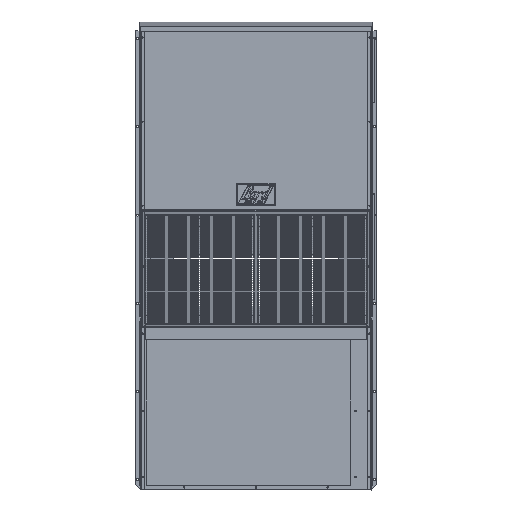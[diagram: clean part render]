
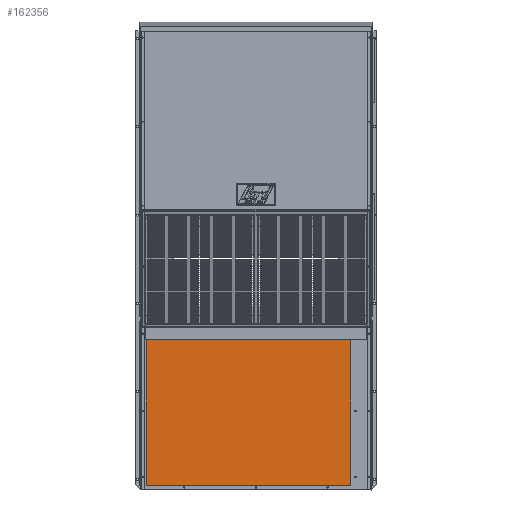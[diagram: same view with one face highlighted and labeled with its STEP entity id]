
A CAD part, top view. The second image highlights one B-rep face of the part: STEP entity #162356.
In plain terms, the highlighted planar face has unit normal (0, 0, 1).
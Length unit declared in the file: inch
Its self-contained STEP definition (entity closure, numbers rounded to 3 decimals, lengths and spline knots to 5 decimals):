
#14458 = LINE ( 'NONE', #82960, #177830 ) ;
#17146 = EDGE_CURVE ( 'NONE', #136410, #23877, #26354, .T. ) ;
#23877 = VERTEX_POINT ( 'NONE', #170547 ) ;
#24650 = ORIENTED_EDGE ( 'NONE', *, *, #102533, .F. ) ;
#26354 = LINE ( 'NONE', #200497, #184662 ) ;
#29046 = EDGE_CURVE ( 'NONE', #105043, #194558, #68339, .T. ) ;
#32884 = CARTESIAN_POINT ( 'NONE',  ( -19.8784, 0.80054, 0.14137 ) ) ;
#40211 = VECTOR ( 'NONE', #197035, 39.37008 ) ;
#43930 = CARTESIAN_POINT ( 'NONE',  ( -19.8784, 30.85454, 0.14137 ) ) ;
#45009 = CARTESIAN_POINT ( 'NONE',  ( 17.1946, 30.85454, 0.14137 ) ) ;
#52374 = ORIENTED_EDGE ( 'NONE', *, *, #29046, .F. ) ;
#54682 = CARTESIAN_POINT ( 'NONE',  ( -19.8784, 30.85454, 0.14137 ) ) ;
#55078 = LINE ( 'NONE', #54682, #40211 ) ;
#68339 = LINE ( 'NONE', #197506, #157360 ) ;
#77631 = DIRECTION ( 'NONE',  ( -1., 0., 0. ) ) ;
#82960 = CARTESIAN_POINT ( 'NONE',  ( 17.1946, 30.85454, 0.14137 ) ) ;
#102533 = EDGE_CURVE ( 'NONE', #23877, #105043, #14458, .T. ) ;
#105043 = VERTEX_POINT ( 'NONE', #115266 ) ;
#115266 = CARTESIAN_POINT ( 'NONE',  ( 17.1946, 0.80054, 0.14137 ) ) ;
#121806 = DIRECTION ( 'NONE',  ( 1., 0., 0. ) ) ;
#130598 = ORIENTED_EDGE ( 'NONE', *, *, #17146, .F. ) ;
#136410 = VERTEX_POINT ( 'NONE', #43930 ) ;
#156020 = AXIS2_PLACEMENT_3D ( 'NONE', #45009, #172172, #77631 ) ;
#156341 = PLANE ( 'NONE',  #156020 ) ;
#157360 = VECTOR ( 'NONE', #182299, 39.37008 ) ;
#162356 = ADVANCED_FACE ( 'NONE', ( #194654 ), #156341, .F. ) ;
#170547 = CARTESIAN_POINT ( 'NONE',  ( 17.1946, 30.85454, 0.14137 ) ) ;
#172172 = DIRECTION ( 'NONE',  ( 0., 0., -1. ) ) ;
#177505 = DIRECTION ( 'NONE',  ( 0., -1., 0. ) ) ;
#177830 = VECTOR ( 'NONE', #177505, 39.37008 ) ;
#182299 = DIRECTION ( 'NONE',  ( -1., 0., 0. ) ) ;
#184662 = VECTOR ( 'NONE', #121806, 39.37008 ) ;
#187677 = EDGE_LOOP ( 'NONE', ( #52374, #24650, #130598, #196344 ) ) ;
#192321 = EDGE_CURVE ( 'NONE', #194558, #136410, #55078, .T. ) ;
#194558 = VERTEX_POINT ( 'NONE', #32884 ) ;
#194654 = FACE_OUTER_BOUND ( 'NONE', #187677, .T. ) ;
#196344 = ORIENTED_EDGE ( 'NONE', *, *, #192321, .F. ) ;
#197035 = DIRECTION ( 'NONE',  ( 0., 1., 0. ) ) ;
#197506 = CARTESIAN_POINT ( 'NONE',  ( -19.8784, 0.80054, 0.14137 ) ) ;
#200497 = CARTESIAN_POINT ( 'NONE',  ( -19.8784, 30.85454, 0.14137 ) ) ;
